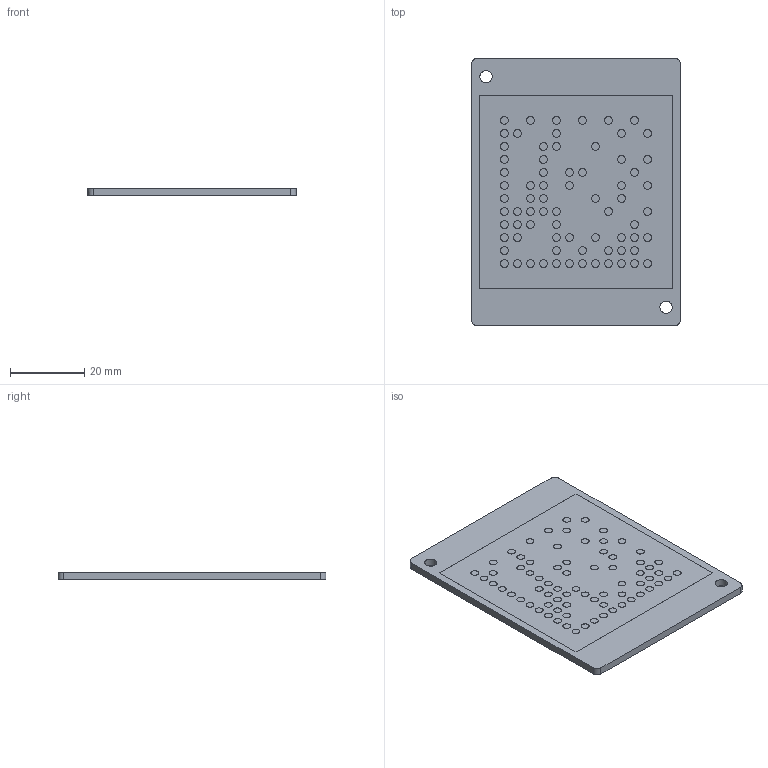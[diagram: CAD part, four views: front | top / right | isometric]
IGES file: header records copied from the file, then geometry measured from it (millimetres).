
Global section: file name: 153-13705_ZTM 50-D2-2x3.3; native system: Autodesk Inventor 2023; preprocessor: unknown; author: ss; date: 20240123.081658; units: millimetre
Bounding box: 56 x 72 x 2 mm (x, y, z)
Volume: 7996.3 mm3; surface area: 8581.2 mm2
Topology: 1 solids, 1 shells, 163 faces, 392 edges, 305 vertices
Faces by surface type: bspline 163
